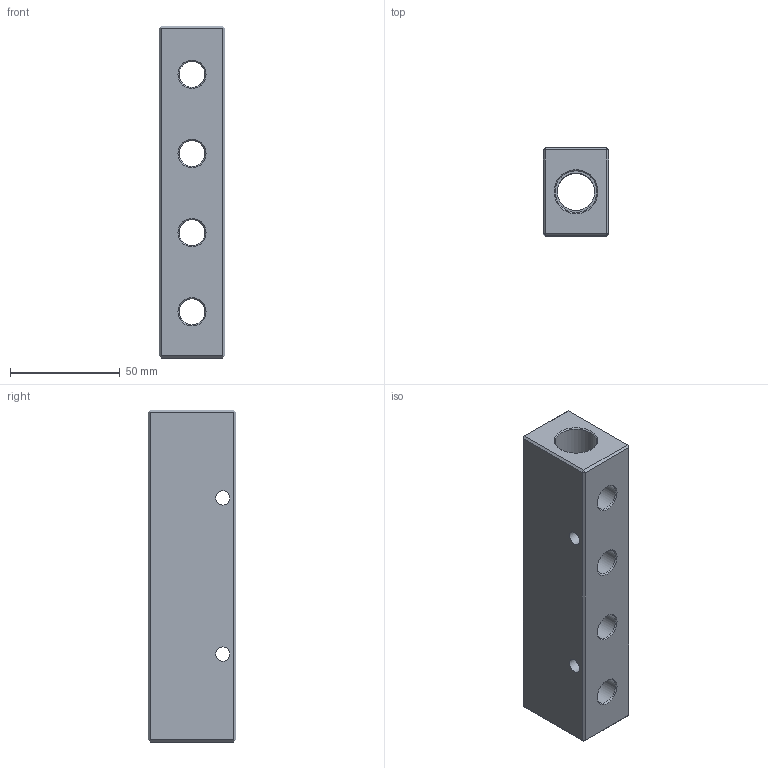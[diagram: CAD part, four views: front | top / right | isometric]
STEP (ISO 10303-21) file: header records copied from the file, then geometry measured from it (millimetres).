
FILE_DESCRIPTION(/* description */ (''),/* implementation_level */ '2;1');
FILE_NAME(/* name */ 'BXH90 2B4 08B2.stp',/* time_stamp */ '2024-11-19T12:14:38+01:00',/* author */ ('freju'),/* organization */ (''),/* preprocessor_version */ 'ST-DEVELOPER v20',/* originating_system */ 'Autodesk Inventor 2025',/* authorisation */ '');
FILE_SCHEMA (('AUTOMOTIVE_DESIGN { 1 0 10303 214 3 1 1 }'));
Length unit declared in the file: millimetre
Products named in the file (1): BXH90 2B4 08B2
Bounding box: 30 x 40 x 151 mm (x, y, z)
Volume: 132152.5 mm3; surface area: 33714.9 mm2
Topology: 1 solids, 1 shells, 52 faces, 125 edges, 74 vertices
Faces by surface type: plane 29, cylinder 13, cone 10
Full cylindrical faces by diameter (mm): 6.5 x2, 11.8 x8, 17 x1, 19 x2
Entity records: 1822 total; most frequent: CARTESIAN_POINT 528, DIRECTION 257, ORIENTED_EDGE 250, EDGE_CURVE 125, AXIS2_PLACEMENT_3D 91, LINE 75, VECTOR 75, VERTEX_POINT 74
